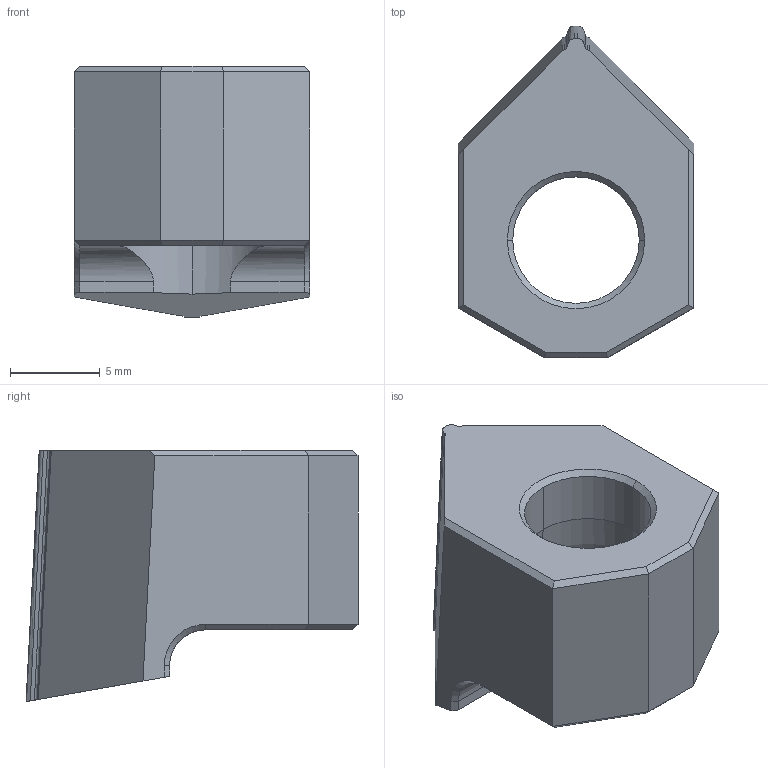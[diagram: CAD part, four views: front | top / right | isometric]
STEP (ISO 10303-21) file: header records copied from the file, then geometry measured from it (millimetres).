
FILE_DESCRIPTION (( 'STEP AP214' ), '1' );
FILE_NAME ('HIN-MXL-51_120.STEP', '2024-06-10T06:29:52', ( 'Paolo' ), ( '' ), 'SwSTEP 2.0', 'SolidWorks 2020', '' );
FILE_SCHEMA (( 'AUTOMOTIVE_DESIGN' ));
Length unit declared in the file: millimetre
Products named in the file (1): HIN-MXL-51_120
Bounding box: 13.1 x 18.5 x 14 mm (x, y, z)
Volume: 1531.7 mm3; surface area: 1102.9 mm2
Topology: 1 solids, 1 shells, 45 faces, 116 edges, 72 vertices
Faces by surface type: plane 27, cylinder 6, bspline 6, cone 4, torus 2
Entity records: 1587 total; most frequent: CARTESIAN_POINT 501, ORIENTED_EDGE 232, DIRECTION 198, EDGE_CURVE 116, VECTOR 82, LINE 82, VERTEX_POINT 72, AXIS2_PLACEMENT_3D 58
